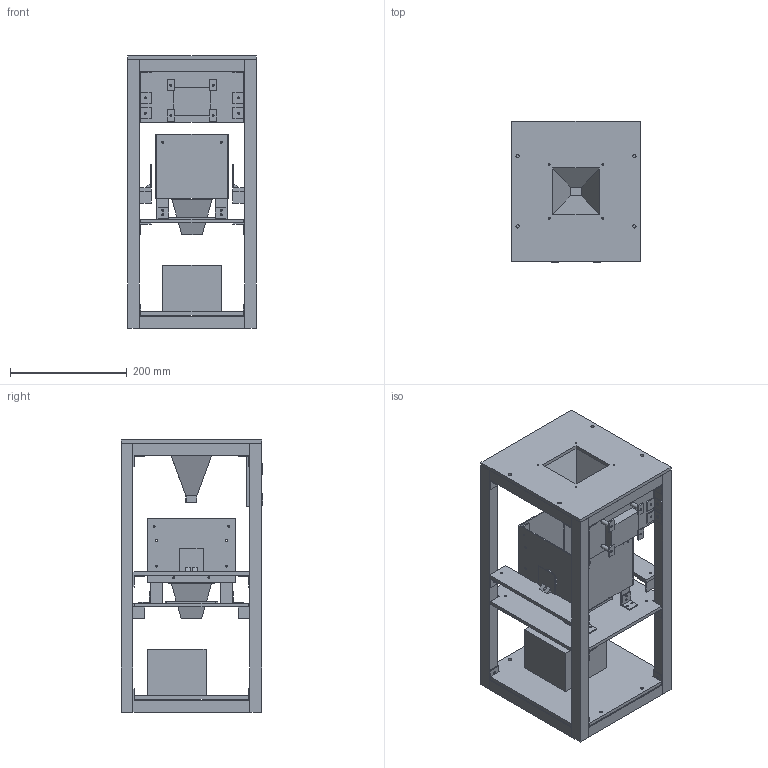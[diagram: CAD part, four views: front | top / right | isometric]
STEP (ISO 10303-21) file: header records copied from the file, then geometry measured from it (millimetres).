
FILE_DESCRIPTION(('Open CASCADE Model'),'2;1');
FILE_NAME('Open CASCADE Shape Model','2026-10-24T14:51:10',('Author'),( 'Open CASCADE'),'Open CASCADE STEP processor 7.8','Open CASCADE 7.8' ,'Unknown');
FILE_SCHEMA(('AUTOMOTIVE_DESIGN { 1 0 10303 214 1 1 1 1 }'));
Length unit declared in the file: millimetre
Products named in the file (90): H3_P7_MANUAL_MECHANICAL_REFERENCE; P13; T01; T02; T03; T04; T05; T06; T07; T08; T09; T10; T11; T12; A01; A02; A03; A04; A09; A10; A11; A12; BCL1; BST1; BCL2; BST2; BCL3; BST3; BCL4; BST4; FC_X_011; FC_Y_011; FC_X_010; FC_Y_010; FC_X_001; FC_Y_001; FC_X_000; FC_Y_000; FC_X_111; FC_Y_111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
Assembly tree (89 placements, depth 2):
  H3_P7_MANUAL_MECHANICAL_REFERENCE
    P13
    T01
    T02
    T03
    T04
    T05
    T06
    T07
    T08
    T09
    T10
    T11
    T12
    A01
    A02
    A03
    A04
    A09
    A10
    A11
    A12
    BCL1
    BST1
    BCL2
    BST2
    BCL3
    BST3
    BCL4
    BST4
    FC_X_011
    FC_Y_011
    FC_X_010
    FC_Y_010
    FC_X_001
    FC_Y_001
    FC_X_000
    FC_Y_000
    FC_X_111
    FC_Y_111
    FC_X_110
    FC_Y_110
    FC_X_101
    FC_Y_101
    FC_X_100
    FC_Y_100
    H01
    H21
    W03
    W01
    BP1
    BP2
    BP3
    BP4
    W02
    W06
    P11
    LA_FL
    LF_FL
    LA_FR
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Bounding box: 220 x 242 x 466 mm (x, y, z)
Volume: 3616165 mm3; surface area: 1093261.7 mm2
Topology: 89 solids, 89 shells, 876 faces, 2078 edges, 1384 vertices
Faces by surface type: plane 650, cylinder 206, bspline 20
Full cylindrical faces by diameter (mm): 3.2 x4, 3.4 x128, 5.5 x56, 7 x4, 32 x2
Entity records: 54126 total; most frequent: CARTESIAN_POINT 9120, DIRECTION 8212, LINE 5114, VECTOR 5114, ORIENTED_EDGE 4156, PCURVE 4156, DEFINITIONAL_REPRESENTATION 4156, EDGE_CURVE 2078
